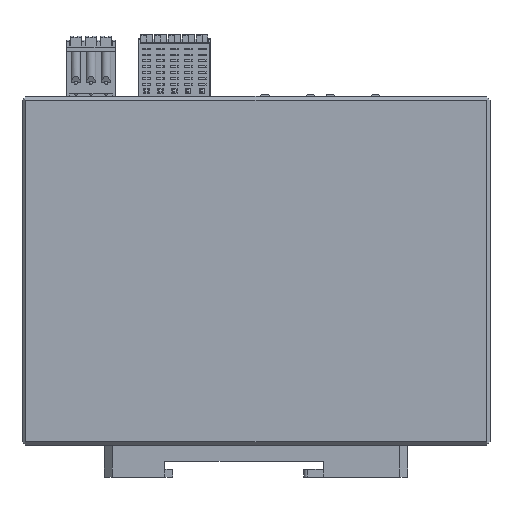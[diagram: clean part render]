
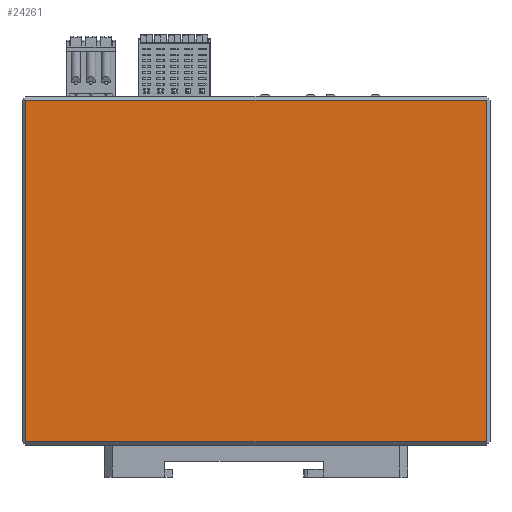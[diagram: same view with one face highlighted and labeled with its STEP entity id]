
A CAD part, left-side view. The second image highlights one B-rep face of the part: STEP entity #24261.
In plain terms, the highlighted planar face has unit normal (-1, 0, 0).
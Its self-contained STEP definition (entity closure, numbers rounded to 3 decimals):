
#3452=DIRECTION('',(0.,1.,0.));
#3453=VECTOR('',#3452,116.);
#3454=CARTESIAN_POINT('',(-16.,-58.,-1.));
#3455=LINE('',#3454,#3453);
#3494=DIRECTION('',(0.,0.,1.));
#3495=VECTOR('',#3494,86.);
#3496=CARTESIAN_POINT('',(-16.,58.,-87.));
#3497=LINE('',#3496,#3495);
#3529=DIRECTION('',(0.,0.,1.));
#3530=VECTOR('',#3529,86.);
#3531=CARTESIAN_POINT('',(-16.,-58.,-87.));
#3532=LINE('',#3531,#3530);
#4177=DIRECTION('',(0.,-1.,0.));
#4178=VECTOR('',#4177,116.);
#4179=CARTESIAN_POINT('',(-16.,58.,-87.));
#4180=LINE('',#4179,#4178);
#20885=CARTESIAN_POINT('',(-16.,58.,-87.));
#20886=VERTEX_POINT('',#20885);
#20887=CARTESIAN_POINT('',(-16.,-58.,-87.));
#20888=VERTEX_POINT('',#20887);
#20890=CARTESIAN_POINT('',(-16.,58.,-1.));
#20892=VERTEX_POINT('',#20890);
#20897=CARTESIAN_POINT('',(-16.,-58.,-1.));
#20898=VERTEX_POINT('',#20897);
#24248=CARTESIAN_POINT('',(-16.,59.,0.));
#24249=DIRECTION('',(-1.,0.,0.));
#24250=DIRECTION('',(0.,-1.,0.));
#24251=AXIS2_PLACEMENT_3D('',#24248,#24249,#24250);
#24252=PLANE('',#24251);
#24254=ORIENTED_EDGE('',*,*,#24253,.F.);
#24256=ORIENTED_EDGE('',*,*,#24255,.F.);
#24257=ORIENTED_EDGE('',*,*,#24231,.T.);
#24258=ORIENTED_EDGE('',*,*,#24213,.F.);
#24259=EDGE_LOOP('',(#24254,#24256,#24257,#24258));
#24260=FACE_OUTER_BOUND('',#24259,.F.);
#24213=EDGE_CURVE('',#20898,#20892,#3455,.T.);
#24231=EDGE_CURVE('',#20886,#20892,#3497,.T.);
#24253=EDGE_CURVE('',#20888,#20898,#3532,.T.);
#24255=EDGE_CURVE('',#20886,#20888,#4180,.T.);
#24261=ADVANCED_FACE('',(#24260),#24252,.T.);
